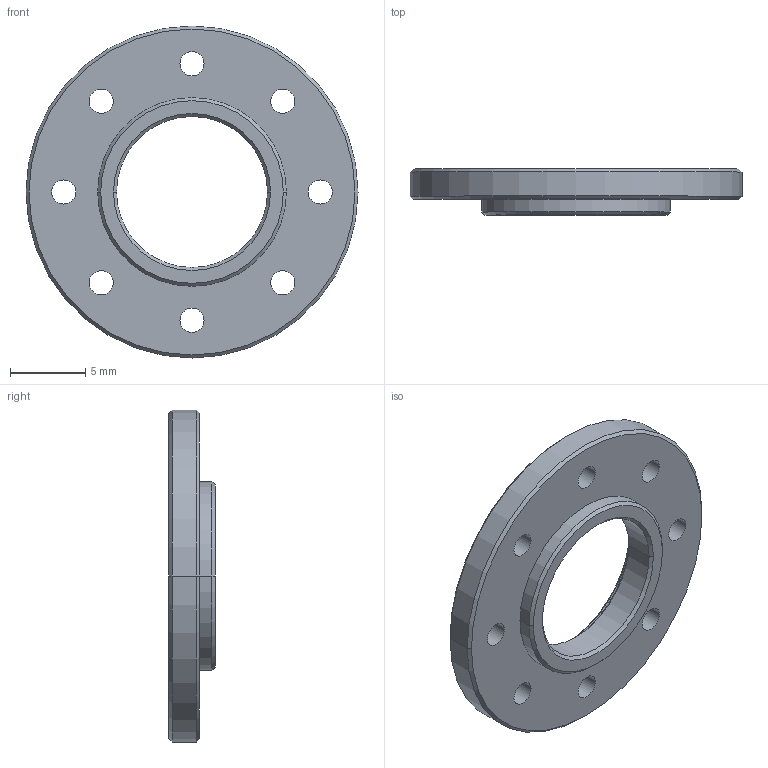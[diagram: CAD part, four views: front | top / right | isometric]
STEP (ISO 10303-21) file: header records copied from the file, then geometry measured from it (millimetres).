
FILE_DESCRIPTION((''),'2;1');
FILE_NAME('DC07_00A_HORN_IDLE','2006-12-27T',('bono'),(''),'PRO/ENGINEER BY PARAMETRIC TECHNOLOGY CORPORATION, 2006170','PRO/ENGINEER BY PARAMETRIC TECHNOLOGY CORPORATION, 2006170','');
FILE_SCHEMA(('CONFIG_CONTROL_DESIGN'));
Length unit declared in the file: millimetre
Products named in the file (1): DC07_00A_HORN_IDLE
Bounding box: 22 x 3.05 x 22 mm (x, y, z)
Volume: 589.5 mm3; surface area: 891.9 mm2
Topology: 1 solids, 1 shells, 56 faces, 128 edges, 76 vertices
Faces by surface type: cone 28, cylinder 24, plane 4
Entity records: 1658 total; most frequent: DIRECTION 316, CARTESIAN_POINT 260, ORIENTED_EDGE 256, AXIS2_PLACEMENT_3D 132, EDGE_CURVE 128, VERTEX_POINT 76, EDGE_LOOP 76, CIRCLE 76
